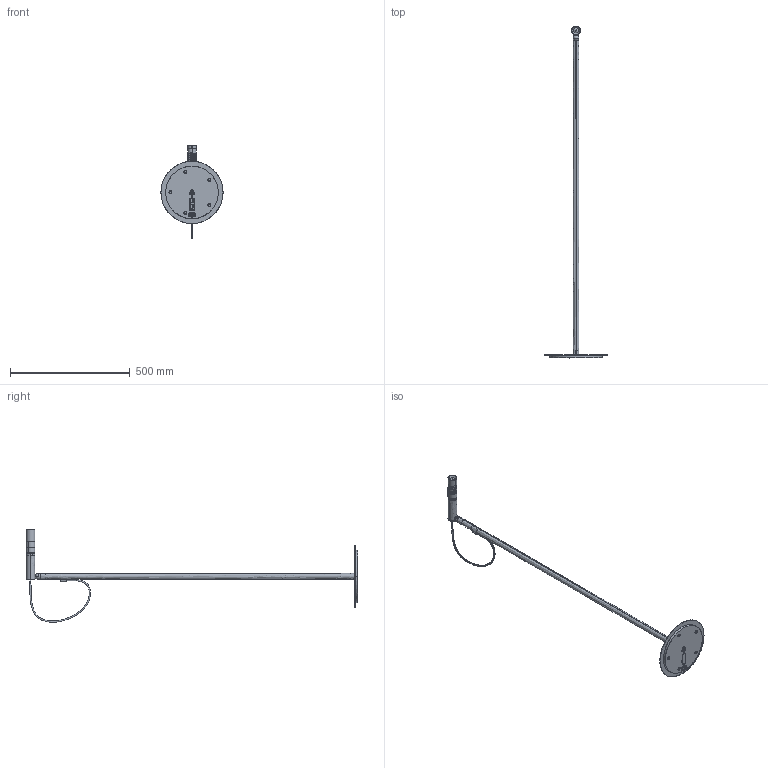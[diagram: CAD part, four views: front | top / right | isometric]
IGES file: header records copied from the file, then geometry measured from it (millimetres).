
Start section: SolidWorks IGES file using analytic representation for surfaces
Global section: file name: N:\- Ingeneria\DISEGNI\PRODOTTI\TYPE\Lettura\type_assieme.IGS; native system: SolidWorks 2016; preprocessor: SolidWorks 2016; author: MargheritaGiacomozzi; date: 220512.162238; units: millimetre
Bounding box: 260 x 1388.65 x 386.75 mm (x, y, z)
Surface area: 475121.9 mm2 (no closed solid volume)
Topology: 0 solids, 0 shells, 879 faces, 13123 edges, 13101 vertices
Faces by surface type: bspline 484, revolution 395
